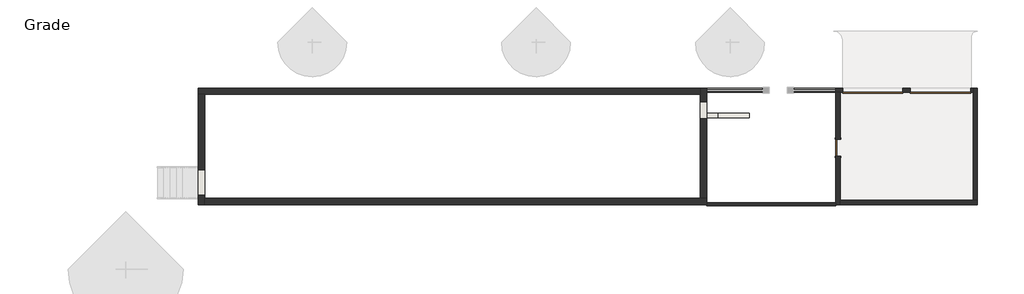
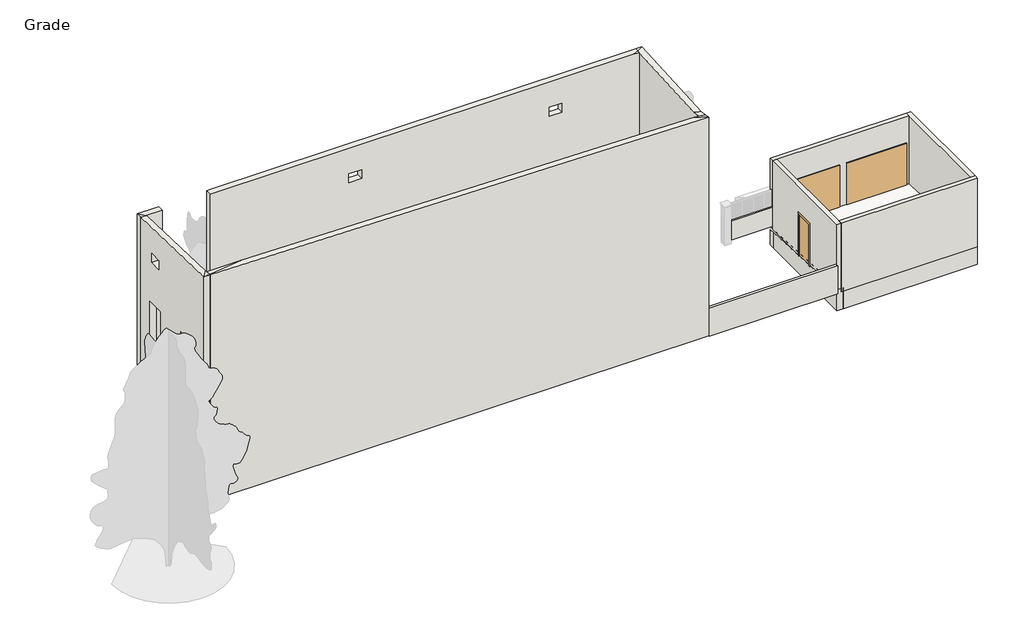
# One storey, part 1 of 2: 16 walls, 3 doors.
"""IFC4 building model written with IfcOpenShell, lengths in millimetres."""

from ifc_helpers import new_model, si_unit, frame, origin, place, context, project, spatial, polyline, outline, extrude, faceted_brep, transform, mapped, element, save
from components import door_64d5ae29, door_55943ef8

model = new_model("IFC4")

# Units and contexts
model_context = context("Model", 3, world=origin())
ifc_project = project(units=[si_unit("LENGTHUNIT", "METRE", prefix="MILLI")], contexts=[model_context])

# Site, building, storey
site = spatial("IfcSite", under=ifc_project)
building = spatial("IfcBuilding", under=site)
storey = spatial("IfcBuildingStorey", under=building, Name="Grade", Elevation=-1117.6)

# Doors
placement = place(None, origin())
door_shape = door_64d5ae29(model_context)
element("IfcDoor", 1, ObjectType="DOOR-Single-Flush : 32\" x 84\"", at=placement, inside=storey, context=model_context, shape_type="MappedRepresentation", body=[
    mapped(door_shape, transform((10466.2464708, 639.7935985, -1117.6), x_axis=(0.0, 1.0, 0.0), y_axis=(-1.0, 0.0, 0.0), z_axis=(0.0, 0.0, 1.0))),
])
door_2_shape = door_55943ef8(model_context)
element("IfcDoor", 2, ObjectType="Overhead-Sectional : 8' x 6'-6\"", at=placement, inside=storey, context=model_context, shape_type="MappedRepresentation", body=[
    mapped(door_2_shape, transform((12142.6464708, 3408.3935985, -1117.6), x_axis=(-1.0, 0.0, 0.0), y_axis=(0.0, -1.0, 0.0), z_axis=(0.0, 0.0, 1.0))),
])
element("IfcDoor", 3, ObjectType="Overhead-Sectional : 8' x 6'-6\"", at=placement, inside=storey, context=model_context, shape_type="MappedRepresentation", body=[
    mapped(door_2_shape, transform((15393.8464708, 3408.3935985, -1117.6), x_axis=(-1.0, 0.0, 0.0), y_axis=(0.0, -1.0, 0.0), z_axis=(0.0, 0.0, 1.0))),
])

# Walls
element("IfcWall", 4, ObjectType="1501 - 12\" Brick", at=placement, inside=storey, context=model_context, shape_type="Brep", body=[
    faceted_brep([(-20318.5535292, 3205.1935985, -1117.6), (-20013.7535292, 3205.1935985, -1117.6), (3849.5464708, 3205.1935985, -1117.6), (3849.5464708, 3205.1935985, -361.95), (3849.5464708, 3205.1935985, 0.0), (3849.5464708, 3205.1935985, 10272.5932866), (3560.5602371, 3205.1935985, 10278.1711209), (-16940.330434, 3205.1935985, 10278.1711209), (-16940.330434, 3205.1935985, 3143.25), (-19277.130434, 3205.1935985, 3143.25), (-19277.130434, 3205.1935985, 10278.1711209), (-20013.7535292, 3205.1935985, 10278.1711209), (-20054.4670057, 3205.1935985, 10278.1711209), (-20318.5535292, 3205.1935985, 10296.6542986), (2223.9464708, 3205.1935985, 1066.8), (2223.9464708, 3205.1935985, 609.6), (1614.3464708, 3205.1935985, 609.6), (1614.3464708, 3205.1935985, 1066.8), (-1909.9035292, 3205.1935985, 2946.4), (-1909.9035292, 3205.1935985, 609.6), (-2786.2035292, 3205.1935985, 609.6), (-2786.2035292, 3205.1935985, 2946.4), (-4500.7035292, 3205.1935985, 2946.4), (-4500.7035292, 3205.1935985, 609.6), (-5377.0035292, 3205.1935985, 609.6), (-5377.0035292, 3205.1935985, 2946.4), (-7091.5035292, 3205.1935985, 2946.4), (-7091.5035292, 3205.1935985, 609.6), (-7967.8035292, 3205.1935985, 609.6), (-7967.8035292, 3205.1935985, 2946.4), (-9479.1035292, 3205.1935985, 2946.4), (-9479.1035292, 3205.1935985, 609.6), (-10355.4035292, 3205.1935985, 609.6), (-10355.4035292, 3205.1935985, 2946.4), (-12736.6535292, 3205.1935985, 2362.2), (-12736.6535292, 3205.1935985, 609.6), (-13498.6535292, 3205.1935985, 609.6), (-13498.6535292, 3205.1935985, 2362.2), (-12675.5347792, 3205.1935985, 5867.4), (-12675.5347792, 3205.1935985, 4114.8), (-13559.7722792, 3205.1935985, 4114.8), (-13559.7722792, 3205.1935985, 5867.4), (-9475.1347792, 3205.1935985, 5867.4), (-9475.1347792, 3205.1935985, 4114.8), (-10359.3722792, 3205.1935985, 4114.8), (-10359.3722792, 3205.1935985, 5867.4), (-7087.5347792, 3205.1935985, 5867.4), (-7087.5347792, 3205.1935985, 4114.8), (-7971.7722792, 3205.1935985, 4114.8), (-7971.7722792, 3205.1935985, 5867.4), (-3719.6535292, 3205.1935985, 5486.4), (-3719.6535292, 3205.1935985, 5029.2), (-4634.0535292, 3205.1935985, 5029.2), (-4634.0535292, 3205.1935985, 5486.4), (-9612.4535292, 3205.1935985, 8991.6), (-9612.4535292, 3205.1935985, 8534.4), (-10222.0535292, 3205.1935985, 8534.4), (-10222.0535292, 3205.1935985, 8991.6), (90.3464708, 3205.1935985, 8991.6), (90.3464708, 3205.1935985, 8534.4), (-519.2535292, 3205.1935985, 8534.4), (-519.2535292, 3205.1935985, 8991.6), (3062.1464708, 3205.1935985, 5486.4), (3062.1464708, 3205.1935985, 5029.2), (2452.5464708, 3205.1935985, 5029.2), (2452.5464708, 3205.1935985, 5486.4), (598.3464708, 3205.1935985, 5486.4), (598.3464708, 3205.1935985, 5029.2), (-11.2535292, 3205.1935985, 5029.2), (-11.2535292, 3205.1935985, 5486.4), (-20318.5535292, 3509.9935985, -1117.6), (-20318.5535292, 3509.9935985, 10287.0), (-19404.130434, 3509.9935985, 10287.0), (-19277.130434, 3509.9935985, 10287.0), (-19277.130434, 3509.9935985, 3143.25), (-16940.330434, 3509.9935985, 3143.25), (-16940.330434, 3509.9935985, 10287.0), (-16813.330434, 3509.9935985, 10287.0), (3849.5464708, 3509.9935985, 10287.0), (3849.5464708, 3509.9935985, -1117.6), (2223.9464708, 3509.9935985, 1066.8), (1614.3464708, 3509.9935985, 1066.8), (1614.3464708, 3509.9935985, 609.6), (2223.9464708, 3509.9935985, 609.6), (-1909.9035292, 3509.9935985, 2946.4), (-2786.2035292, 3509.9935985, 2946.4), (-2786.2035292, 3509.9935985, 609.6), (-1909.9035292, 3509.9935985, 609.6), (-4500.7035292, 3509.9935985, 2946.4), (-5377.0035292, 3509.9935985, 2946.4), (-5377.0035292, 3509.9935985, 609.6), (-4500.7035292, 3509.9935985, 609.6), (-7091.5035292, 3509.9935985, 2946.4), (-7967.8035292, 3509.9935985, 2946.4), (-7967.8035292, 3509.9935985, 609.6), (-7091.5035292, 3509.9935985, 609.6), (-9479.1035292, 3509.9935985, 2946.4), (-10355.4035292, 3509.9935985, 2946.4), (-10355.4035292, 3509.9935985, 609.6), (-9479.1035292, 3509.9935985, 609.6), (-12736.6535292, 3509.9935985, 2362.2), (-13498.6535292, 3509.9935985, 2362.2), (-13498.6535292, 3509.9935985, 609.6), (-12736.6535292, 3509.9935985, 609.6), (-12675.5347792, 3509.9935985, 5867.4), (-13559.7722792, 3509.9935985, 5867.4), (-13559.7722792, 3509.9935985, 4114.8), (-12675.5347792, 3509.9935985, 4114.8), (-9475.1347792, 3509.9935985, 5867.4), (-10359.3722792, 3509.9935985, 5867.4), (-10359.3722792, 3509.9935985, 4114.8), (-9475.1347792, 3509.9935985, 4114.8), (-7087.5347792, 3509.9935985, 5867.4), (-7971.7722792, 3509.9935985, 5867.4), (-7971.7722792, 3509.9935985, 4114.8), (-7087.5347792, 3509.9935985, 4114.8), (-3719.6535292, 3509.9935985, 5486.4), (-4634.0535292, 3509.9935985, 5486.4), (-4634.0535292, 3509.9935985, 5029.2), (-3719.6535292, 3509.9935985, 5029.2), (-9612.4535292, 3509.9935985, 8991.6), (-10222.0535292, 3509.9935985, 8991.6), (-10222.0535292, 3509.9935985, 8534.4), (-9612.4535292, 3509.9935985, 8534.4), (90.3464708, 3509.9935985, 8991.6), (-519.2535292, 3509.9935985, 8991.6), (-519.2535292, 3509.9935985, 8534.4), (90.3464708, 3509.9935985, 8534.4), (3062.1464708, 3509.9935985, 5486.4), (2452.5464708, 3509.9935985, 5486.4), (2452.5464708, 3509.9935985, 5029.2), (3062.1464708, 3509.9935985, 5029.2), (598.3464708, 3509.9935985, 5486.4), (-11.2535292, 3509.9935985, 5486.4), (-11.2535292, 3509.9935985, 5029.2), (598.3464708, 3509.9935985, 5029.2), (3849.5464708, 3353.5348685, 10282.4679947)], [[[0, 1, 2, 3, 4, 5, 6, 7, 8, 9, 10, 11, 12, 13], [14, 15, 16, 17], [18, 19, 20, 21], [22, 23, 24, 25], [26, 27, 28, 29], [30, 31, 32, 33], [34, 35, 36, 37], [38, 39, 40, 41], [42, 43, 44, 45], [46, 47, 48, 49], [50, 51, 52, 53], [54, 55, 56, 57], [58, 59, 60, 61], [62, 63, 64, 65], [66, 67, 68, 69]], [[70, 71, 72, 73, 74, 75, 76, 77, 78, 79], [80, 81, 82, 83], [84, 85, 86, 87], [88, 89, 90, 91], [92, 93, 94, 95], [96, 97, 98, 99], [100, 101, 102, 103], [104, 105, 106, 107], [108, 109, 110, 111], [112, 113, 114, 115], [116, 117, 118, 119], [120, 121, 122, 123], [124, 125, 126, 127], [128, 129, 130, 131], [132, 133, 134, 135]], [[0, 13, 71, 70]], [[15, 14, 80, 83]], [[16, 15, 83, 82]], [[17, 16, 82, 81]], [[14, 17, 81, 80]], [[19, 18, 84, 87]], [[20, 19, 87, 86]], [[21, 20, 86, 85]], [[18, 21, 85, 84]], [[23, 22, 88, 91]], [[24, 23, 91, 90]], [[25, 24, 90, 89]], [[22, 25, 89, 88]], [[27, 26, 92, 95]], [[28, 27, 95, 94]], [[29, 28, 94, 93]], [[26, 29, 93, 92]], [[31, 30, 96, 99]], [[32, 31, 99, 98]], [[33, 32, 98, 97]], [[30, 33, 97, 96]], [[35, 34, 100, 103]], [[36, 35, 103, 102]], [[37, 36, 102, 101]], [[34, 37, 101, 100]], [[39, 38, 104, 107]], [[40, 39, 107, 106]], [[41, 40, 106, 105]], [[38, 41, 105, 104]], [[43, 42, 108, 111]], [[44, 43, 111, 110]], [[45, 44, 110, 109]], [[42, 45, 109, 108]], [[47, 46, 112, 115]], [[48, 47, 115, 114]], [[49, 48, 114, 113]], [[46, 49, 113, 112]], [[51, 50, 116, 119]], [[52, 51, 119, 118]], [[53, 52, 118, 117]], [[50, 53, 117, 116]], [[55, 54, 120, 123]], [[56, 55, 123, 122]], [[57, 56, 122, 121]], [[54, 57, 121, 120]], [[59, 58, 124, 127]], [[60, 59, 127, 126]], [[61, 60, 126, 125]], [[58, 61, 125, 124]], [[2, 1, 0, 70, 79]], [[9, 8, 75, 74]], [[8, 7, 76, 75]], [[10, 9, 74, 73]], [[7, 6, 136, 78, 77, 76]], [[6, 5, 136]], [[13, 12, 71]], [[12, 11, 10, 73, 72, 71]], [[2, 79, 78, 136, 5, 4, 3]], [[63, 62, 128, 131]], [[64, 63, 131, 130]], [[65, 64, 130, 129]], [[62, 65, 129, 128]], [[67, 66, 132, 135]], [[68, 67, 135, 134]], [[69, 68, 134, 133]], [[66, 69, 133, 132]]]),
])
element("IfcWall", 5, ObjectType="1501 - 12\" Brick", at=placement, inside=storey, context=model_context, shape_type="Brep", body=[
    faceted_brep([(-20013.7535292, -2103.4064015, -1117.6), (-20013.7535292, -1798.6064015, -1117.6), (-20013.7535292, 3205.1935985, -1117.6), (-20013.7535292, 3205.1935985, -361.95), (-20013.7535292, 3205.1935985, 0.0), (-20013.7535292, 3205.1935985, 10278.1711209), (-20013.7535292, 3158.2034398, 10276.8099974), (-20013.7535292, -1704.5330344, 10430.8333246), (-20013.7535292, -1798.6064015, 10438.844287), (-20013.7535292, -2056.4177433, 10460.7986085), (-20013.7535292, -2103.4064015, 10459.7384536), (-20013.7535292, 2290.7935985, 8991.6), (-20013.7535292, 2290.7935985, 8534.4), (-20013.7535292, 1681.1935985, 8534.4), (-20013.7535292, 1681.1935985, 8991.6), (-20013.7535292, -141.2564015, 6451.6), (-20013.7535292, -141.2564015, 4114.8), (-20013.7535292, -1017.5564015, 4114.8), (-20013.7535292, -1017.5564015, 6451.6), (-20013.7535292, 2424.1435985, 6451.6), (-20013.7535292, 2424.1435985, 4114.8), (-20013.7535292, 1547.8435985, 4114.8), (-20013.7535292, 1547.8435985, 6451.6), (-20013.7535292, 1909.7935985, 2362.2), (-20013.7535292, 1909.7935985, 609.6), (-20013.7535292, 1147.7935985, 609.6), (-20013.7535292, 1147.7935985, 2362.2), (-20013.7535292, -1646.2064015, 0.0), (-20013.7535292, -1646.2064015, 3048.0), (-20013.7535292, -427.0064015, 3048.0), (-20013.7535292, -427.0064015, 0.0), (-20318.5535292, -2103.4064015, -1117.6), (-20318.5535292, -2103.4064015, 10464.8), (-20318.5535292, 3205.1935985, 10296.6542986), (-20318.5535292, 3205.1935985, -1117.6), (-20318.5535292, 2290.7935985, 8991.6), (-20318.5535292, 1681.1935985, 8991.6), (-20318.5535292, 1681.1935985, 8534.4), (-20318.5535292, 2290.7935985, 8534.4), (-20318.5535292, -141.2564015, 6451.6), (-20318.5535292, -1017.5564015, 6451.6), (-20318.5535292, -1017.5564015, 4114.8), (-20318.5535292, -141.2564015, 4114.8), (-20318.5535292, 2424.1435985, 6451.6), (-20318.5535292, 1547.8435985, 6451.6), (-20318.5535292, 1547.8435985, 4114.8), (-20318.5535292, 2424.1435985, 4114.8), (-20318.5535292, 1909.7935985, 2362.2), (-20318.5535292, 1147.7935985, 2362.2), (-20318.5535292, 1147.7935985, 609.6), (-20318.5535292, 1909.7935985, 609.6), (-20318.5535292, -1646.2064015, 0.0), (-20318.5535292, -427.0064015, 0.0), (-20318.5535292, -427.0064015, 3048.0), (-20318.5535292, -1646.2064015, 3048.0), (-20054.4670057, 3205.1935985, 10278.1711209)], [[[0, 1, 2, 3, 4, 5, 6, 7, 8, 9, 10], [11, 12, 13, 14], [15, 16, 17, 18], [19, 20, 21, 22], [23, 24, 25, 26], [27, 28, 29, 30]], [[31, 32, 33, 34], [35, 36, 37, 38], [39, 40, 41, 42], [43, 44, 45, 46], [47, 48, 49, 50], [51, 52, 53, 54]], [[2, 1, 0, 31, 34]], [[0, 10, 32, 31]], [[5, 4, 3, 2, 34, 33, 55]], [[12, 11, 35, 38]], [[13, 12, 38, 37]], [[14, 13, 37, 36]], [[11, 14, 36, 35]], [[16, 15, 39, 42]], [[17, 16, 42, 41]], [[18, 17, 41, 40]], [[15, 18, 40, 39]], [[20, 19, 43, 46]], [[21, 20, 46, 45]], [[22, 21, 45, 44]], [[19, 22, 44, 43]], [[24, 23, 47, 50]], [[25, 24, 50, 49]], [[26, 25, 49, 48]], [[23, 26, 48, 47]], [[28, 27, 51, 54]], [[29, 28, 54, 53]], [[30, 29, 53, 52]], [[27, 30, 52, 51]], [[10, 9, 32]], [[9, 8, 7, 32]], [[7, 6, 55, 33, 32]], [[6, 5, 55]]]),
])
element("IfcWall", 6, ObjectType="1501 - 12\" Brick", at=placement, inside=storey, context=model_context, shape_type="Brep", body=[
    faceted_brep([(4154.3464708, -1798.6064015, -1117.6), (3849.5464708, -1798.6064015, -1117.6), (-20013.7535292, -1798.6064015, -1117.6), (-20013.7535292, -1798.6064015, -361.95), (-20013.7535292, -1798.6064015, 0.0), (-20013.7535292, -1798.6064015, 10438.844287), (-18341.4159929, -1798.6064015, 10438.844287), (3630.6510562, -1798.6064015, 10073.9734278), (3849.5464708, -1798.6064015, 10047.6424014), (4154.3464708, -1798.6064015, 10010.9778744), (-20013.7535292, -2103.4064015, -1117.6), (4154.3464708, -2103.4064015, -1117.6), (4154.3464708, -2103.4064015, 10058.4), (-20013.7535292, -2103.4064015, 10459.7384536), (4154.3464708, -2012.9151736, -1117.6), (-20013.7535292, -2056.4177433, 10460.7986085)], [[[0, 1, 2, 3, 4, 5, 6, 7, 8, 9]], [[10, 11, 12, 13]], [[2, 1, 0, 14, 11, 10]], [[5, 4, 3, 2, 10, 13, 15]], [[12, 9, 8, 7]], [[13, 12, 7, 6, 15]], [[6, 5, 15]], [[9, 12, 11, 14, 0]]]),
])
element("IfcWall", 7, ObjectType="1501 - 12\" Brick", at=placement, inside=storey, context=model_context, shape_type="Brep", body=[
    faceted_brep([(3849.5464708, 3509.9935985, 10287.0), (3849.5464708, 3509.9935985, -1117.6), (3849.5464708, 3205.1935985, -1117.6), (3849.5464708, -1798.6064015, -1117.6), (3849.5464708, -1798.6064015, -361.95), (3849.5464708, -1798.6064015, 0.0), (3849.5464708, -1798.6064015, 10047.6424014), (3849.5464708, -1311.8242034, 9971.9066844), (3849.5464708, 3205.1935985, 10272.5932866), (3849.5464708, 3353.5348685, 10282.4679947), (3849.5464708, -884.2064015, 1658.9613901), (3849.5464708, -884.2064015, 1201.7613901), (3849.5464708, -274.6064015, 1201.7613901), (3849.5464708, -274.6064015, 1658.9613901), (3849.5464708, 2036.7935985, 0.0), (3849.5464708, 2849.5935985, 0.0), (3849.5464708, 2849.5935985, 2133.6), (3849.5464708, 2036.7935985, 2133.6), (4154.3464708, 3509.9935985, -1117.6), (4154.3464708, 3509.9935985, -965.2), (4154.3464708, 3509.9935985, -3.175), (4154.3464708, 3509.9935985, 10287.0), (4154.3464708, -1450.3846403, 9956.8), (4154.3464708, -1798.6064015, 10010.9778744), (4154.3464708, -1798.6064015, -1117.6), (4154.3464708, -884.2064015, 1658.9613901), (4154.3464708, -274.6064015, 1658.9613901), (4154.3464708, -274.6064015, 1201.7613901), (4154.3464708, -884.2064015, 1201.7613901), (4154.3464708, 2036.7935985, 0.0), (4154.3464708, 2036.7935985, 2133.6), (4154.3464708, 2849.5935985, 2133.6), (4154.3464708, 2849.5935985, 0.0)], [[[0, 1, 2, 3, 4, 5, 6, 7, 8, 9], [10, 11, 12, 13], [14, 15, 16, 17]], [[18, 19, 20, 21, 22, 23, 24], [25, 26, 27, 28], [29, 30, 31, 32]], [[3, 2, 1, 18, 24]], [[11, 10, 25, 28]], [[12, 11, 28, 27]], [[13, 12, 27, 26]], [[10, 13, 26, 25]], [[15, 14, 29, 32]], [[16, 15, 32, 31]], [[17, 16, 31, 30]], [[14, 17, 30, 29]], [[0, 9, 21]], [[9, 8, 7, 22, 21]], [[7, 6, 23, 22]], [[0, 21, 20, 19, 18, 1]], [[3, 24, 23, 6, 5, 4]]]),
])
element("IfcWall", 8, ObjectType="1501 - 8\" Brick", at=placement, inside=storey, context=model_context, shape_type="SweptSolid", body=[
    extrude(outline(polyline([(-965.2, 4154.3464708), (-965.2, 6201.2860273), (-177.8, 4709.3702378), (-177.8, 4154.3464708), (-965.2, 4154.3464708)])), frame((0.0, 2087.5935985, 0.0), z_axis=(0.0, 1.0, 0.0), x_axis=(0.0, 0.0, 1.0)), (0.0, 0.0, 1.0), 203.2),
])
element("IfcWall", 9, ObjectType="Generic - 12\" Masonry", at=placement, inside=storey, context=model_context, shape_type="Brep", body=[
    faceted_brep([(10364.6464708, 3214.7185985, -2032.0), (10659.9214708, 3214.7185985, -2032.0), (16876.5714708, 3214.7185985, -2032.0), (16876.5714708, 3214.7185985, -1253.6064539), (10659.9214708, 3214.7185985, -1253.6064539), (10364.6464708, 3214.7185985, -1253.6064539), (10364.6464708, 3509.9935985, -2032.0), (10364.6464708, 3509.9935985, -1270.2416652), (16876.5714708, 3509.9935985, -1270.2416652), (16876.5714708, 3509.9935985, -2032.0)], [[[0, 1, 2, 3, 4, 5]], [[6, 7, 8, 9]], [[2, 1, 0, 6, 9]], [[0, 5, 7, 6]], [[3, 2, 9, 8]], [[5, 4, 3, 8, 7]]]),
])
element("IfcWall", 10, ObjectType="Generic - 12\" Masonry", at=placement, inside=storey, context=model_context, shape_type="Brep", body=[
    faceted_brep([(10659.9214708, -2103.4064015, -2032.0), (10659.9214708, -1808.1314015, -2032.0), (10659.9214708, 3214.7185985, -2032.0), (10659.9214708, 3214.7185985, -1253.6064539), (10659.9214708, -1808.1314015, -970.6289891), (10659.9214708, -2103.4064015, -953.9937778), (10364.6464708, -2103.4064015, -2032.0), (10364.6464708, -2103.4064015, -953.9937778), (10364.6464708, 3214.7185985, -1253.6064539), (10364.6464708, 3214.7185985, -2032.0)], [[[0, 1, 2, 3, 4, 5]], [[6, 7, 8, 9]], [[2, 1, 0, 6, 9]], [[0, 5, 7, 6]], [[3, 2, 9, 8]], [[5, 4, 3, 8, 7]]]),
])
element("IfcWall", 11, ObjectType="Generic - 12\" Masonry", at=placement, inside=storey, context=model_context, shape_type="Brep", body=[
    faceted_brep([(17171.8464708, -1808.1314015, -2032.0), (16876.5714708, -1808.1314015, -2032.0), (10659.9214708, -1808.1314015, -2032.0), (10659.9214708, -1808.1314015, -970.6289891), (16876.5714708, -1808.1314015, -970.6289891), (17171.8464708, -1808.1314015, -970.6289891), (17171.8464708, -2103.4064015, -2032.0), (17171.8464708, -2103.4064015, -953.9937778), (10659.9214708, -2103.4064015, -953.9937778), (10659.9214708, -2103.4064015, -2032.0)], [[[0, 1, 2, 3, 4, 5]], [[6, 7, 8, 9]], [[2, 1, 0, 6, 9]], [[0, 5, 7, 6]], [[3, 2, 9, 8]], [[5, 4, 3, 8, 7]]]),
])
element("IfcWall", 12, ObjectType="Generic - 12\" Masonry", at=placement, inside=storey, context=model_context, shape_type="Brep", body=[
    faceted_brep([(16876.5714708, 3509.9935985, -2032.0), (16876.5714708, 3214.7185985, -2032.0), (16876.5714708, -1808.1314015, -2032.0), (16876.5714708, -1808.1314015, -970.6289891), (16876.5714708, 3214.7185985, -1253.6064539), (16876.5714708, 3509.9935985, -1270.2416652), (17171.8464708, 3509.9935985, -2032.0), (17171.8464708, 3509.9935985, -1270.2416652), (17171.8464708, -1808.1314015, -970.6289891), (17171.8464708, -1808.1314015, -2032.0)], [[[0, 1, 2, 3, 4, 5]], [[6, 7, 8, 9]], [[2, 1, 0, 6, 9]], [[0, 5, 7, 6]], [[3, 2, 9, 8]], [[5, 4, 3, 8, 7]]]),
])
element("IfcWall", 13, ObjectType="Generic - 6\" Masonry", at=placement, inside=storey, context=model_context, shape_type="Brep", body=[
    faceted_brep([(4154.3464708, -2155.7901736, -1117.6), (10364.6464708, -2155.7901736, -1117.6), (10364.6464708, -2155.7901736, 304.8), (4154.3464708, -2155.7901736, 304.8), (4154.3464708, -2012.9151736, -1117.6), (4154.3464708, -2012.9151736, 304.8), (10364.6464708, -2012.9151736, 304.8), (10364.6464708, -2012.9151736, -1117.6), (4154.3464708, -2103.4064015, -1117.6), (10364.6464708, -2103.4064015, -1117.6)], [[[0, 1, 2, 3]], [[4, 5, 6, 7]], [[1, 0, 8, 4, 7, 9]], [[3, 2, 6, 5]], [[0, 3, 5, 4, 8]], [[2, 1, 9, 7, 6]]]),
])
element("IfcWall", 14, ObjectType="Generic - 8\" Brick", at=placement, inside=storey, context=model_context, shape_type="Brep", body=[
    faceted_brep([(10364.6464708, 3306.7935985, 2387.6), (10364.6464708, 3306.7935985, -1117.6), (10567.8464708, 3306.7935985, -1117.6), (10688.4964708, 3306.7935985, -1117.6), (10688.4964708, 3306.7935985, 1039.8125), (13596.7964708, 3306.7935985, 1039.8125), (13596.7964708, 3306.7935985, -1117.6), (13939.6964708, 3306.7935985, -1117.6), (13939.6964708, 3306.7935985, 1039.8125), (16847.9964708, 3306.7935985, 1039.8125), (16847.9964708, 3306.7935985, -1117.6), (16968.6464708, 3306.7935985, -1117.6), (16968.6464708, 3306.7935985, 2387.6), (10567.8464708, 3306.7935985, 2387.6), (10364.6464708, 3509.9935985, -1117.6), (10364.6464708, 3509.9935985, 2387.6), (16968.6464708, 3509.9935985, 2387.6), (16968.6464708, 3509.9935985, -1117.6), (16847.9964708, 3509.9935985, -1117.6), (16847.9964708, 3509.9935985, 1039.8125), (13939.6964708, 3509.9935985, 1039.8125), (13939.6964708, 3509.9935985, -1117.6), (13596.7964708, 3509.9935985, -1117.6), (13596.7964708, 3509.9935985, 1039.8125), (10688.4964708, 3509.9935985, 1039.8125), (10688.4964708, 3509.9935985, -1117.6)], [[[0, 1, 2, 3, 4, 5, 6, 7, 8, 9, 10, 11, 12, 13]], [[14, 15, 16, 17, 18, 19, 20, 21, 22, 23, 24, 25]], [[1, 14, 25, 3, 2]], [[17, 11, 10, 18]], [[6, 22, 21, 7]], [[1, 0, 15, 14]], [[12, 11, 17, 16]], [[24, 4, 3, 25]], [[4, 24, 23, 5]], [[5, 23, 22, 6]], [[20, 8, 7, 21]], [[8, 20, 19, 9]], [[9, 19, 18, 10]], [[0, 13, 12, 16, 15]]]),
])
element("IfcWall", 15, ObjectType="Generic - 8\" Brick", at=placement, inside=storey, context=model_context, shape_type="Brep", body=[
    faceted_brep([(10567.8464708, 1046.1935985, 1016.0), (10567.8464708, 1046.1935985, -1117.6), (10567.8464708, 3306.7935985, -1117.6), (10567.8464708, 3306.7935985, 2387.6), (10567.8464708, -1900.2064015, 2387.6), (10567.8464708, -2103.4064015, 2387.6), (10567.8464708, -2103.4064015, -1117.6), (10567.8464708, -1900.2064015, -1117.6), (10567.8464708, 233.3935985, -1117.6), (10567.8464708, 233.3935985, 1016.0), (10364.6464708, 3306.7935985, -1117.6), (10364.6464708, 1046.1935985, -1117.6), (10364.6464708, 1046.1935985, 1016.0), (10364.6464708, 233.3935985, 1016.0), (10364.6464708, 233.3935985, -1117.6), (10364.6464708, -2012.9151736, -1117.6), (10364.6464708, -2103.4064015, -1117.6), (10364.6464708, -2103.4064015, 2387.6), (10364.6464708, 3306.7935985, 2387.6)], [[[0, 1, 2, 3, 4, 5, 6, 7, 8, 9]], [[10, 11, 12, 13, 14, 15, 16, 17, 18]], [[2, 1, 11, 10]], [[8, 7, 6, 16, 15, 14]], [[3, 2, 10, 18]], [[12, 11, 1, 0]], [[13, 12, 0, 9]], [[14, 13, 9, 8]], [[5, 17, 16, 6]], [[5, 4, 3, 18, 17]]]),
])
element("IfcWall", 16, ObjectType="Generic - 8\" Brick", at=placement, inside=storey, context=model_context, shape_type="Brep", body=[
    faceted_brep([(17171.8464708, -1900.2064015, -1117.6), (16968.6464708, -1900.2064015, -1117.6), (10567.8464708, -1900.2064015, -1117.6), (10567.8464708, -1900.2064015, 2387.6), (16968.6464708, -1900.2064015, 2387.6), (17171.8464708, -1900.2064015, 2387.6), (17171.8464708, -2103.4064015, -1117.6), (17171.8464708, -2103.4064015, 2387.6), (10567.8464708, -2103.4064015, 2387.6), (10567.8464708, -2103.4064015, -1117.6)], [[[0, 1, 2, 3, 4, 5]], [[6, 7, 8, 9]], [[2, 1, 0, 6, 9]], [[0, 5, 7, 6]], [[2, 9, 8, 3]], [[5, 4, 3, 8, 7]]]),
])
element("IfcWall", 17, ObjectType="Generic - 8\" Brick", at=placement, inside=storey, context=model_context, shape_type="Brep", body=[
    faceted_brep([(16968.6464708, 3509.9935985, -1117.6), (16968.6464708, 3306.7935985, -1117.6), (16968.6464708, -1900.2064015, -1117.6), (16968.6464708, -1900.2064015, 2387.6), (16968.6464708, 3306.7935985, 2387.6), (16968.6464708, 3509.9935985, 2387.6), (17171.8464708, 3509.9935985, -1117.6), (17171.8464708, 3509.9935985, 2387.6), (17171.8464708, -1900.2064015, 2387.6), (17171.8464708, -1900.2064015, -1117.6)], [[[0, 1, 2, 3, 4, 5]], [[6, 7, 8, 9]], [[2, 1, 0, 6, 9]], [[0, 5, 7, 6]], [[3, 2, 9, 8]], [[5, 4, 3, 8, 7]]]),
])
element("IfcWall", 18, ObjectType="Generic - 8\" Brick", at=placement, inside=storey, context=model_context, shape_type="SweptSolid", body=[
    extrude(outline(polyline([(6846.7464708, 3306.7935985), (4154.3464708, 3306.7935985), (4154.3464708, 3509.9935985), (6846.7464708, 3509.9935985), (6846.7464708, 3306.7935985)])), frame((0.0, 0.0, -965.2), z_axis=(0.0, 0.0, 1.0), x_axis=(1.0, 0.0, 0.0)), (0.0, 0.0, 1.0), 962.025),
])
element("IfcWall", 19, ObjectType="Generic - 8\" Brick", at=placement, inside=storey, context=model_context, shape_type="SweptSolid", body=[
    extrude(outline(polyline([(10364.6464708, 3306.7935985), (8327.8839708, 3306.7935985), (8327.8839708, 3509.9935985), (10364.6464708, 3509.9935985), (10364.6464708, 3306.7935985)])), frame((0.0, 0.0, -965.2), z_axis=(0.0, 0.0, 1.0), x_axis=(1.0, 0.0, 0.0)), (0.0, 0.0, 1.0), 962.025),
])

save(model, "model.ifc")
